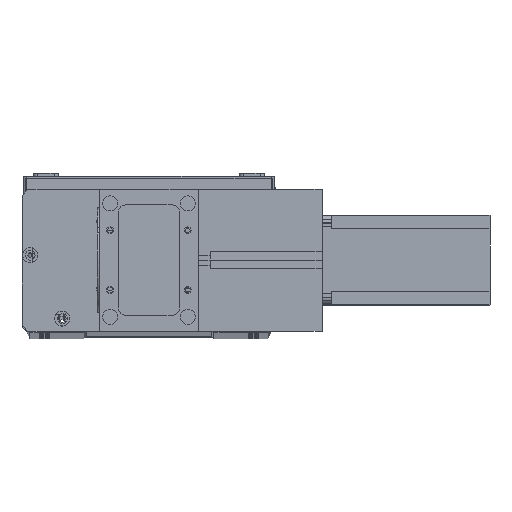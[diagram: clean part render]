
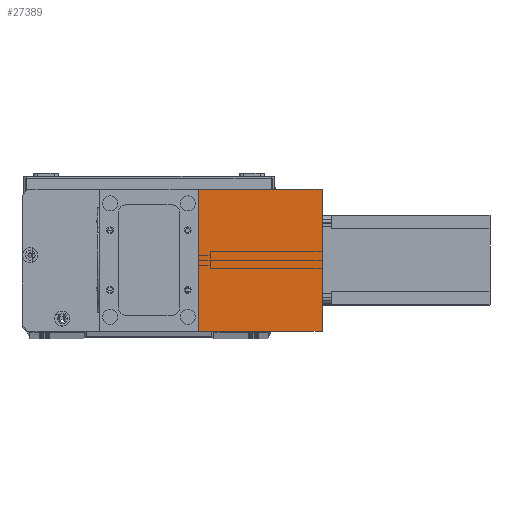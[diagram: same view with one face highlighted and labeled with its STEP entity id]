
A CAD part, top view. The second image highlights one B-rep face of the part: STEP entity #27389.
In plain terms, the highlighted planar face has unit normal (0, 0, 1) as drawn and (1, 0, 0) by its records, which use the part's own axes.
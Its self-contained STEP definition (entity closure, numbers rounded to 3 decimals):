
#1793 = CARTESIAN_POINT ( 'NONE',  ( 82., 0., 0. ) ) ;
#2855 = ORIENTED_EDGE ( 'NONE', *, *, #4471, .T. ) ;
#3480 = AXIS2_PLACEMENT_3D ( 'NONE', #29336, #3763, #20382 ) ;
#3675 = CARTESIAN_POINT ( 'NONE',  ( 82., 95., 83. ) ) ;
#3763 = DIRECTION ( 'NONE',  ( -1., 0., 0. ) ) ;
#3954 = EDGE_CURVE ( 'NONE', #17548, #12146, #15173, .T. ) ;
#4417 = VECTOR ( 'NONE', #15130, 1000. ) ;
#4471 = EDGE_CURVE ( 'NONE', #12146, #12025, #13038, .T. ) ;
#4528 = EDGE_CURVE ( 'NONE', #7582, #12025, #11543, .T. ) ;
#4760 = EDGE_CURVE ( 'NONE', #17548, #7582, #16643, .T. ) ;
#7582 = VERTEX_POINT ( 'NONE', #3675 ) ;
#8216 = VECTOR ( 'NONE', #16368, 1000. ) ;
#8277 = CARTESIAN_POINT ( 'NONE',  ( 82., 95., 0. ) ) ;
#9046 = ORIENTED_EDGE ( 'NONE', *, *, #3954, .T. ) ;
#10781 = CARTESIAN_POINT ( 'NONE',  ( 82., 95., 83. ) ) ;
#11543 = LINE ( 'NONE', #10781, #4417 ) ;
#12025 = VERTEX_POINT ( 'NONE', #8277 ) ;
#12146 = VERTEX_POINT ( 'NONE', #1793 ) ;
#13038 = LINE ( 'NONE', #17851, #24645 ) ;
#13328 = ORIENTED_EDGE ( 'NONE', *, *, #4528, .F. ) ;
#13540 = ORIENTED_EDGE ( 'NONE', *, *, #4760, .F. ) ;
#15130 = DIRECTION ( 'NONE',  ( 0., 0., -1. ) ) ;
#15173 = LINE ( 'NONE', #18034, #8216 ) ;
#16334 = CARTESIAN_POINT ( 'NONE',  ( 82., 0., 83. ) ) ;
#16368 = DIRECTION ( 'NONE',  ( 0., 0., -1. ) ) ;
#16643 = LINE ( 'NONE', #21109, #28140 ) ;
#17189 = DIRECTION ( 'NONE',  ( 0., 1., 0. ) ) ;
#17548 = VERTEX_POINT ( 'NONE', #16334 ) ;
#17750 = DIRECTION ( 'NONE',  ( 0., 1., 0. ) ) ;
#17851 = CARTESIAN_POINT ( 'NONE',  ( 82., 0., 0. ) ) ;
#17990 = PLANE ( 'NONE',  #3480 ) ;
#18034 = CARTESIAN_POINT ( 'NONE',  ( 82., 0., 83. ) ) ;
#18763 = FACE_OUTER_BOUND ( 'NONE', #19783, .T. ) ;
#19783 = EDGE_LOOP ( 'NONE', ( #2855, #13328, #13540, #9046 ) ) ;
#20382 = DIRECTION ( 'NONE',  ( 0., 0., 1. ) ) ;
#21109 = CARTESIAN_POINT ( 'NONE',  ( 82., 0., 83. ) ) ;
#24645 = VECTOR ( 'NONE', #17189, 1000. ) ;
#27389 = ADVANCED_FACE ( 'NONE', ( #18763 ), #17990, .F. ) ;
#28140 = VECTOR ( 'NONE', #17750, 1000. ) ;
#29336 = CARTESIAN_POINT ( 'NONE',  ( 82., 0., 83. ) ) ;
